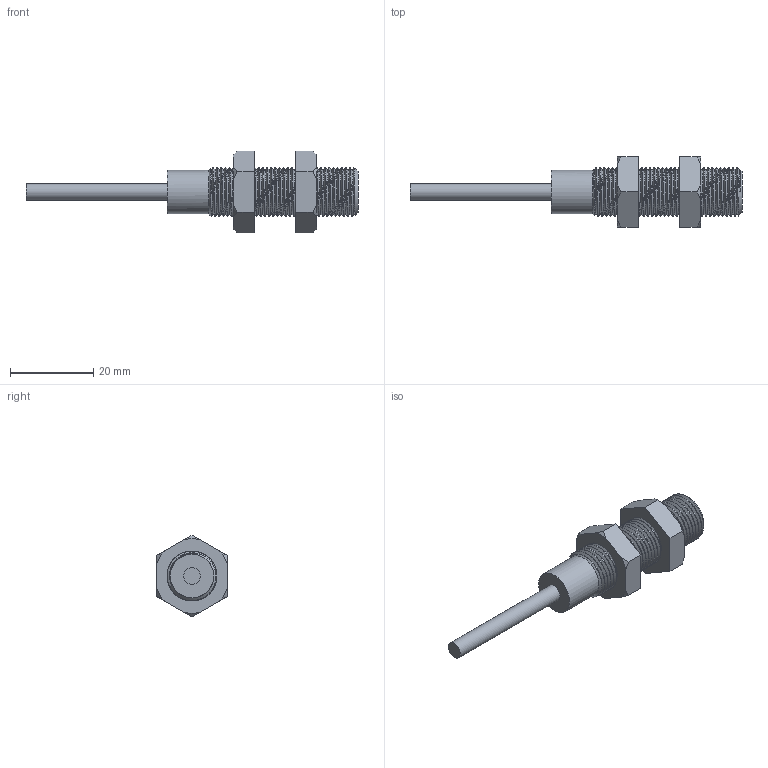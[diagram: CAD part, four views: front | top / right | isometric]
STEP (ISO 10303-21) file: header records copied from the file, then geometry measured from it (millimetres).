
FILE_DESCRIPTION(/* description */ ('Katalogmodell Elobau'),/* implementation_level */ '2;1');
FILE_NAME(/* name */ '122V62_E.stp',/* time_stamp */ '2014-06-04T09:56:50+02:00',/* author */ ('Elobau GmbH & Co. KG'),/* organization */ ('Elobau GmbH & Co. KG'),/* preprocessor_version */ 'ST-DEVELOPER v15',/* originating_system */ 'SIEMENS PLM Software NX 8.5',/* authorisation */ '');
FILE_SCHEMA (('AUTOMOTIVE_DESIGN { 1 0 10303 214 3 1 1 1 }'));
Length unit declared in the file: millimetre
Products named in the file (1): 122V62_E
Bounding box: 80 x 17 x 19.63 mm (x, y, z)
Volume: 6437.6 mm3; surface area: 3682.2 mm2
Topology: 1 solids, 1 shells, 50 faces, 126 edges, 83 vertices
Faces by surface type: plane 21, cone 15, cylinder 8, bspline 6
Full cylindrical faces by diameter (mm): 4.1 x1, 10.5 x1
Entity records: 14108 total; most frequent: CARTESIAN_POINT 13021, ORIENTED_EDGE 238, DIRECTION 180, EDGE_CURVE 119, VERTEX_POINT 81, AXIS2_PLACEMENT_3D 72, EDGE_LOOP 58, B_SPLINE_CURVE_WITH_KNOTS 55
